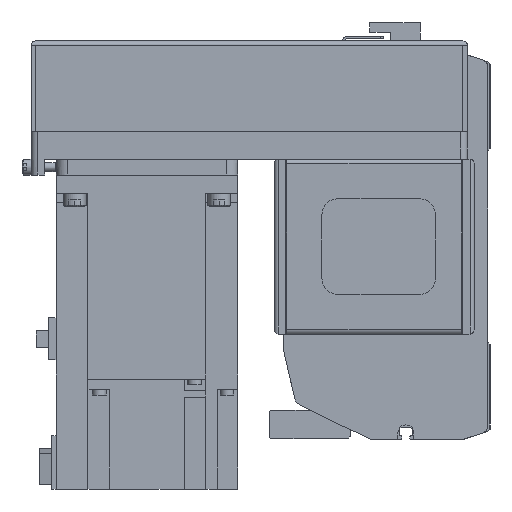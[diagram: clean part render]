
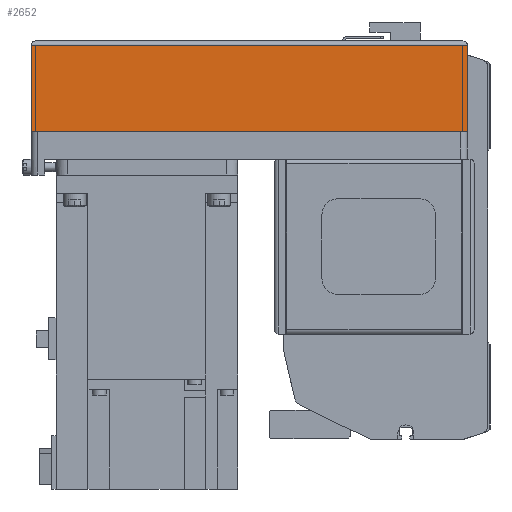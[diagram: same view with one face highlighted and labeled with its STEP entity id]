
A CAD part, left-side view. The second image highlights one B-rep face of the part: STEP entity #2652.
In plain terms, the highlighted planar face has unit normal (-1, 0, 0) as drawn and (0, 1, 0) by its records, which use the part's own axes.
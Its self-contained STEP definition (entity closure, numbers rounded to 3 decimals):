
#2652 = ADVANCED_FACE( '', ( #5659 ), #5660, .T. );
#5659 = FACE_OUTER_BOUND( '', #8905, .T. );
#5660 = PLANE( '', #8906 );
#8905 = EDGE_LOOP( '', ( #16399, #16400, #16401, #16402 ) );
#8906 = AXIS2_PLACEMENT_3D( '', #16403, #16404, #16405 );
#16399 = ORIENTED_EDGE( '', *, *, #19525, .F. );
#16400 = ORIENTED_EDGE( '', *, *, #20163, .F. );
#16401 = ORIENTED_EDGE( '', *, *, #20757, .T. );
#16402 = ORIENTED_EDGE( '', *, *, #21593, .T. );
#16403 = CARTESIAN_POINT( '', ( -192., 40., -50. ) );
#16404 = DIRECTION( '', ( 0., 1., 0. ) );
#16405 = DIRECTION( '', ( 0., 0., 1. ) );
#19525 = EDGE_CURVE( '', #23712, #23714, #23715, .T. );
#20163 = EDGE_CURVE( '', #24725, #23712, #24727, .T. );
#20757 = EDGE_CURVE( '', #24725, #25599, #25601, .T. );
#21593 = EDGE_CURVE( '', #25599, #23714, #26685, .T. );
#23712 = VERTEX_POINT( '', #29537 );
#23714 = VERTEX_POINT( '', #29540 );
#23715 = LINE( '', #29541, #29542 );
#24725 = VERTEX_POINT( '', #31049 );
#24727 = LINE( '', #31051, #31052 );
#25599 = VERTEX_POINT( '', #32370 );
#25601 = LINE( '', #32373, #32374 );
#26685 = LINE( '', #34004, #34005 );
#29537 = CARTESIAN_POINT( '', ( 0., 40., -50. ) );
#29540 = CARTESIAN_POINT( '', ( 0., 40., -12.1 ) );
#29541 = CARTESIAN_POINT( '', ( 0., 40., -50. ) );
#29542 = VECTOR( '', #35861, 1000. );
#31049 = CARTESIAN_POINT( '', ( -192., 40., -50. ) );
#31051 = CARTESIAN_POINT( '', ( -192., 40., -50. ) );
#31052 = VECTOR( '', #36706, 1000. );
#32370 = CARTESIAN_POINT( '', ( -192., 40., -12.1 ) );
#32373 = CARTESIAN_POINT( '', ( -192., 40., -50. ) );
#32374 = VECTOR( '', #37400, 1000. );
#34004 = CARTESIAN_POINT( '', ( -192., 40., -12.1 ) );
#34005 = VECTOR( '', #38307, 1000. );
#35861 = DIRECTION( '', ( 0., 0., 1. ) );
#36706 = DIRECTION( '', ( 1., 0., 0. ) );
#37400 = DIRECTION( '', ( 0., 0., 1. ) );
#38307 = DIRECTION( '', ( 1., 0., 0. ) );
